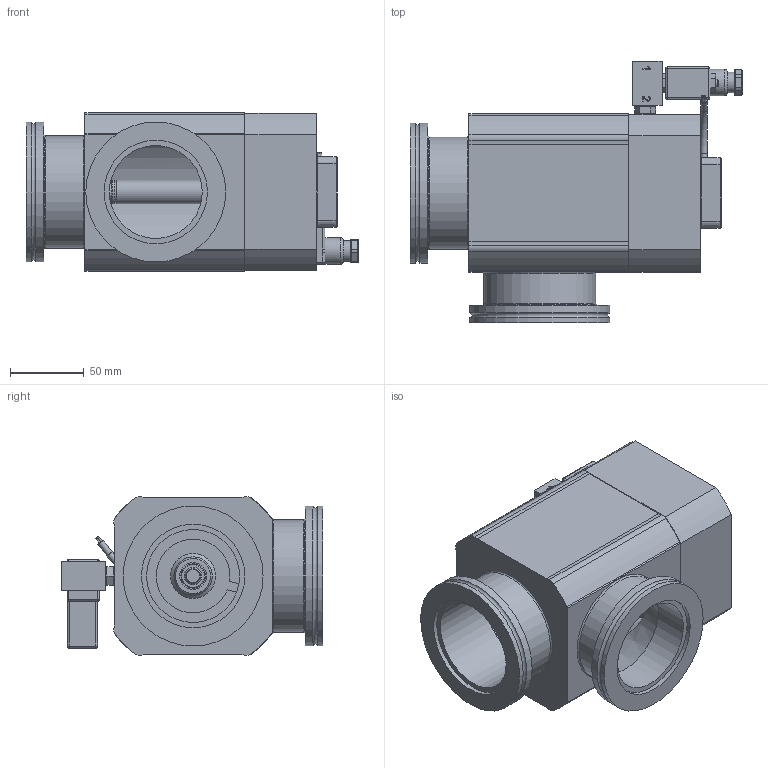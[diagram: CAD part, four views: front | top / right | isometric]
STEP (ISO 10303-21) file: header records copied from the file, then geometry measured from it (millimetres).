
FILE_DESCRIPTION(/* description */ (''),/* implementation_level */ '2;1');
FILE_NAME(/* name */ '1139822416_203.stp',/* time_stamp */ '2012-11-15T10:02:27+01:00',/* author */ (''),/* organization */ (''),/* preprocessor_version */ 'ST-DEVELOPER v11',/* originating_system */ 'SIEMENS PLM Software NX 7.5',/* authorisation */ '');
FILE_SCHEMA (('AP203_CONFIGURATION_CONTROLLED_3D_DESIGN_OF_MECHANICAL_PARTS_AND_ASSEMBLIES_MIM_LF'));
Length unit declared in the file: millimetre
Products named in the file (18): 467863; 467864; 421306; 233359; 236204_1.1; n-7604-110; 326371.1; 414761_18041ID; 415266; 243267.7; 259415.2; N-6013-443.2; 224796.1; 421285; n-8501-300_MODELNX-ARRAGMNTArrangement 1; 461026; 459840_MODEL; 459220
Assembly tree (25 placements, depth 4):
  459220
    224796.1  x7
    N-6013-443.2  x2
    259415.2
    243267.7
    415266
    459840_MODEL
      414761_18041ID
    461026
      326371.1
      n-7604-110
      n-8501-300_MODELNX-ARRAGMNTArrangement 1
        467864
        467863
    421285
      236204_1.1  x2
      233359
      421306
Bounding box: 225.1 x 177.5 x 107.6 mm (x, y, z)
Volume: 1005471.3 mm3; surface area: 261674.9 mm2
Topology: 35 solids, 35 shells, 873 faces, 2098 edges, 1351 vertices
Faces by surface type: plane 492, cylinder 221, cone 79, torus 38, bspline 21, sphere 12, extrusion 10
Full cylindrical faces by diameter (mm): 1.4 x4, 3 x8, 3.1 x1, 3.3 x2, 4 x3, 4.16 x7, 4.2 x11, 4.5 x4, 4.6 x1, 4.7 x2, 5 x15, 5.5 x5, 5.6 x2, 7 x1, 7.4 x1, 7.5 x2, 8 x1, 8.5 x8, 8.566 x1, 9 x2, 9.728 x2, 10 x4, 10.1 x1, 12 x1, 14 x1, 15.975 x3, 16 x1, 16.5 x2, 18 x1, 18.18 x1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
Entity records: 24852 total; most frequent: CARTESIAN_POINT 5332, DIRECTION 3362, ORIENTED_EDGE 3166, EDGE_CURVE 1583, AXIS2_PLACEMENT_3D 1223, VERTEX_POINT 1121, EDGE_LOOP 1002, VECTOR 916
